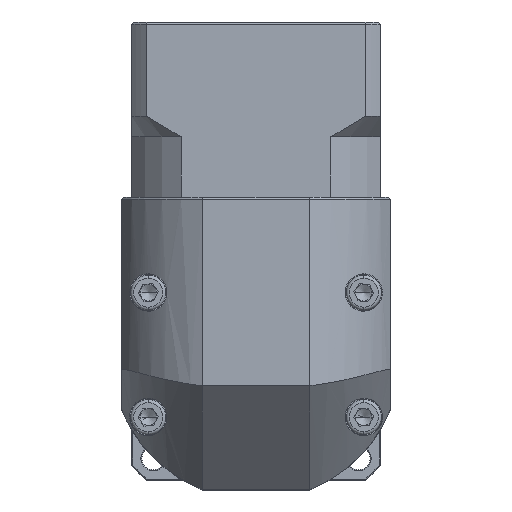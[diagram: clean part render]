
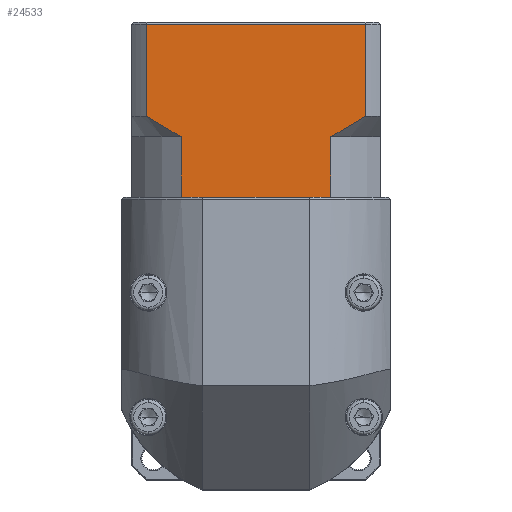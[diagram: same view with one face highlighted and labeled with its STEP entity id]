
A CAD part, top view. The second image highlights one B-rep face of the part: STEP entity #24533.
In plain terms, the highlighted planar face has unit normal (0, 0, 1).
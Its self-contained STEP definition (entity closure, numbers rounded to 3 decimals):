
#8143 = CARTESIAN_POINT ( 'NONE',  ( -22.844, 134.146, 66.299 ) ) ;
#8486 = DIRECTION ( 'NONE',  ( 0., -1., 0. ) ) ;
#9148 = FACE_OUTER_BOUND ( 'NONE', #61914, .T. ) ;
#9373 = CARTESIAN_POINT ( 'NONE',  ( -75.759, 111.946, 66.299 ) ) ;
#10498 = VERTEX_POINT ( 'NONE', #8143 ) ;
#12556 = DIRECTION ( 'NONE',  ( -1., 0., 0. ) ) ;
#13319 = LINE ( 'NONE', #43916, #35659 ) ;
#13448 = AXIS2_PLACEMENT_3D ( 'NONE', #84201, #34095, #126325 ) ;
#17645 = CARTESIAN_POINT ( 'NONE',  ( -31.274, 106.946, 66.299 ) ) ;
#18470 = CARTESIAN_POINT ( 'NONE',  ( -67.329, 106.946, 66.299 ) ) ;
#19428 = CARTESIAN_POINT ( 'NONE',  ( -24.207, 111.045, 66.299 ) ) ;
#21527 = ORIENTED_EDGE ( 'NONE', *, *, #88209, .T. ) ;
#21908 = CARTESIAN_POINT ( 'NONE',  ( -66.338, 92.446, 66.299 ) ) ;
#23110 = EDGE_CURVE ( 'NONE', #100976, #103500, #130356, .T. ) ;
#23378 = VERTEX_POINT ( 'NONE', #21908 ) ;
#24533 = ADVANCED_FACE ( 'NONE', ( #9148 ), #53747, .F. ) ;
#26372 = ORIENTED_EDGE ( 'NONE', *, *, #23110, .T. ) ;
#27829 = DIRECTION ( 'NONE',  ( 0., 1., 0. ) ) ;
#28787 = CARTESIAN_POINT ( 'NONE',  ( -68.781, 107.694, 66.299 ) ) ;
#28854 = LINE ( 'NONE', #121241, #102391 ) ;
#30135 = CARTESIAN_POINT ( 'NONE',  ( -22.844, 111.946, 66.299 ) ) ;
#33278 = CARTESIAN_POINT ( 'NONE',  ( -67.329, 106.946, 66.299 ) ) ;
#34095 = DIRECTION ( 'NONE',  ( 0., 0., -1. ) ) ;
#35659 = VECTOR ( 'NONE', #12556, 1000. ) ;
#35791 = VECTOR ( 'NONE', #118715, 1000. ) ;
#36555 = CARTESIAN_POINT ( 'NONE',  ( -22.844, 106.946, 66.299 ) ) ;
#37989 = VECTOR ( 'NONE', #63938, 1000. ) ;
#43916 = CARTESIAN_POINT ( 'NONE',  ( -79.302, 134.146, 66.299 ) ) ;
#48466 = CARTESIAN_POINT ( 'NONE',  ( -70.213, 108.498, 66.299 ) ) ;
#48863 = EDGE_CURVE ( 'NONE', #93976, #128221, #98054, .T. ) ;
#48984 = LINE ( 'NONE', #57660, #113086 ) ;
#51522 = EDGE_CURVE ( 'NONE', #93976, #92408, #48984, .T. ) ;
#51801 = LINE ( 'NONE', #68056, #35791 ) ;
#53049 = EDGE_CURVE ( 'NONE', #10498, #128221, #126866, .T. ) ;
#53747 = PLANE ( 'NONE',  #13448 ) ;
#57660 = CARTESIAN_POINT ( 'NONE',  ( -31.274, 106.946, 66.299 ) ) ;
#59529 = CARTESIAN_POINT ( 'NONE',  ( -79.302, 92.446, 66.299 ) ) ;
#59653 = ORIENTED_EDGE ( 'NONE', *, *, #51522, .F. ) ;
#59944 = ORIENTED_EDGE ( 'NONE', *, *, #88439, .T. ) ;
#60939 = CARTESIAN_POINT ( 'NONE',  ( -31.274, 106.946, 66.299 ) ) ;
#61914 = EDGE_LOOP ( 'NONE', ( #120133, #122383, #77411, #26372, #111543, #59944, #21527, #95566, #59653, #83687 ) ) ;
#63415 = LINE ( 'NONE', #106010, #37989 ) ;
#63938 = DIRECTION ( 'NONE',  ( 0., 1., 0. ) ) ;
#68056 = CARTESIAN_POINT ( 'NONE',  ( -79.302, 92.446, 66.299 ) ) ;
#69370 = DIRECTION ( 'NONE',  ( 1., 0., 0. ) ) ;
#71783 = VECTOR ( 'NONE', #27829, 1000. ) ;
#73294 = LINE ( 'NONE', #110142, #71783 ) ;
#74648 = CARTESIAN_POINT ( 'NONE',  ( -31.274, 92.446, 66.299 ) ) ;
#75771 = VERTEX_POINT ( 'NONE', #95960 ) ;
#77411 = ORIENTED_EDGE ( 'NONE', *, *, #123189, .F. ) ;
#83687 = ORIENTED_EDGE ( 'NONE', *, *, #48863, .T. ) ;
#84201 = CARTESIAN_POINT ( 'NONE',  ( -79.302, 134.646, 66.299 ) ) ;
#86412 = EDGE_CURVE ( 'NONE', #86663, #103500, #73294, .T. ) ;
#86663 = VERTEX_POINT ( 'NONE', #116396 ) ;
#88165 = VECTOR ( 'NONE', #69370, 1000. ) ;
#88209 = EDGE_CURVE ( 'NONE', #23378, #75771, #108948, .T. ) ;
#88439 = EDGE_CURVE ( 'NONE', #86663, #23378, #28854, .T. ) ;
#88614 = VERTEX_POINT ( 'NONE', #115314 ) ;
#89687 = CARTESIAN_POINT ( 'NONE',  ( -22.844, 111.946, 66.299 ) ) ;
#92408 = VERTEX_POINT ( 'NONE', #74648 ) ;
#93976 = VERTEX_POINT ( 'NONE', #60939 ) ;
#95566 = ORIENTED_EDGE ( 'NONE', *, *, #105622, .T. ) ;
#95960 = CARTESIAN_POINT ( 'NONE',  ( -32.265, 92.446, 66.299 ) ) ;
#98054 = B_SPLINE_CURVE_WITH_KNOTS ( 'NONE', 3,
 ( #17645, #121048, #131418, #100841, #19428, #89687 ),
 .UNSPECIFIED., .F., .F.,
 ( 4, 2, 4 ),
 ( 0.1, 0.104, 0.109 ),
 .UNSPECIFIED. ) ;
#100841 = CARTESIAN_POINT ( 'NONE',  ( -25.587, 110.171, 66.299 ) ) ;
#100976 = VERTEX_POINT ( 'NONE', #9373 ) ;
#102391 = VECTOR ( 'NONE', #131174, 1000. ) ;
#103500 = VERTEX_POINT ( 'NONE', #33278 ) ;
#105622 = EDGE_CURVE ( 'NONE', #75771, #92408, #51801, .T. ) ;
#106010 = CARTESIAN_POINT ( 'NONE',  ( -75.759, 106.946, 66.299 ) ) ;
#108948 = LINE ( 'NONE', #59529, #88165 ) ;
#110142 = CARTESIAN_POINT ( 'NONE',  ( -67.329, 106.946, 66.299 ) ) ;
#111543 = ORIENTED_EDGE ( 'NONE', *, *, #86412, .F. ) ;
#113086 = VECTOR ( 'NONE', #8486, 1000. ) ;
#115314 = CARTESIAN_POINT ( 'NONE',  ( -75.759, 134.146, 66.299 ) ) ;
#116396 = CARTESIAN_POINT ( 'NONE',  ( -67.329, 92.446, 66.299 ) ) ;
#117204 = VECTOR ( 'NONE', #127915, 1000. ) ;
#118715 = DIRECTION ( 'NONE',  ( 1., 0., 0. ) ) ;
#120133 = ORIENTED_EDGE ( 'NONE', *, *, #53049, .F. ) ;
#120521 = CARTESIAN_POINT ( 'NONE',  ( -73.021, 110.173, 66.299 ) ) ;
#120987 = CARTESIAN_POINT ( 'NONE',  ( -74.399, 111.047, 66.299 ) ) ;
#121048 = CARTESIAN_POINT ( 'NONE',  ( -29.817, 107.696, 66.299 ) ) ;
#121241 = CARTESIAN_POINT ( 'NONE',  ( -79.302, 92.446, 66.299 ) ) ;
#122383 = ORIENTED_EDGE ( 'NONE', *, *, #127757, .T. ) ;
#123189 = EDGE_CURVE ( 'NONE', #100976, #88614, #63415, .T. ) ;
#126325 = DIRECTION ( 'NONE',  ( 0., 1., 0. ) ) ;
#126866 = LINE ( 'NONE', #36555, #117204 ) ;
#127757 = EDGE_CURVE ( 'NONE', #10498, #88614, #13319, .T. ) ;
#127915 = DIRECTION ( 'NONE',  ( 0., -1., 0. ) ) ;
#128221 = VERTEX_POINT ( 'NONE', #30135 ) ;
#130018 = CARTESIAN_POINT ( 'NONE',  ( -75.759, 111.946, 66.299 ) ) ;
#130356 = B_SPLINE_CURVE_WITH_KNOTS ( 'NONE', 3,
 ( #130018, #120987, #120521, #48466, #28787, #18470 ),
 .UNSPECIFIED., .F., .F.,
 ( 4, 2, 4 ),
 ( 0.052, 0.057, 0.062 ),
 .UNSPECIFIED. ) ;
#131174 = DIRECTION ( 'NONE',  ( 1., 0., 0. ) ) ;
#131418 = CARTESIAN_POINT ( 'NONE',  ( -28.392, 108.497, 66.299 ) ) ;
